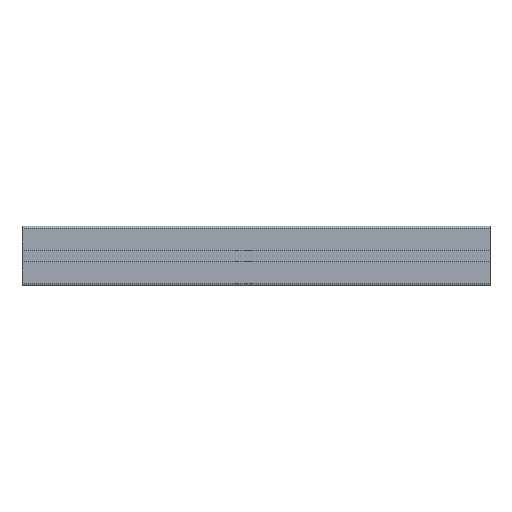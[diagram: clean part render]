
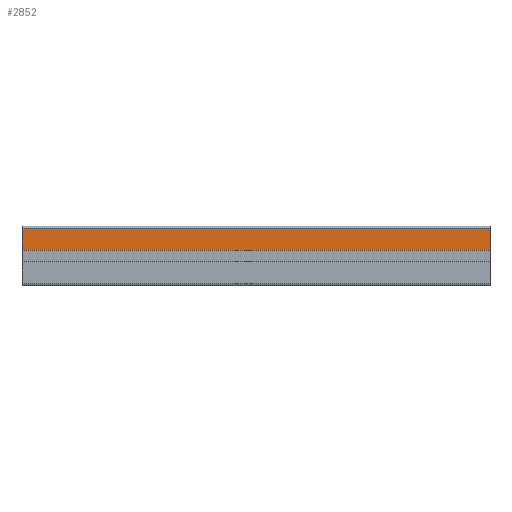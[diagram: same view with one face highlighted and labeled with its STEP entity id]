
A CAD part, front view. The second image highlights one B-rep face of the part: STEP entity #2852.
In plain terms, the highlighted planar face has unit normal (0, -1, 0).
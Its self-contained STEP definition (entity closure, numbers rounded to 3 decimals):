
#148 = VERTEX_POINT ( 'NONE', #3857 ) ;
#162 = ORIENTED_EDGE ( 'NONE', *, *, #2840, .F. ) ;
#172 = ORIENTED_EDGE ( 'NONE', *, *, #2857, .F. ) ;
#175 = EDGE_CURVE ( 'NONE', #2841, #148, #3930, .T. ) ;
#176 = VERTEX_POINT ( 'NONE', #3913 ) ;
#177 = ORIENTED_EDGE ( 'NONE', *, *, #2833, .T. ) ;
#461 = DIRECTION ( 'NONE',  ( 0., 1., 0. ) ) ;
#464 = AXIS2_PLACEMENT_3D ( 'NONE', #468, #461, #522 ) ;
#468 = CARTESIAN_POINT ( 'NONE',  ( 500., -32., 6. ) ) ;
#469 = FACE_OUTER_BOUND ( 'NONE', #2849, .T. ) ;
#473 = PLANE ( 'NONE',  #464 ) ;
#474 = DIRECTION ( 'NONE',  ( -1., 0., 0. ) ) ;
#475 = VECTOR ( 'NONE', #474, 1000. ) ;
#476 = CARTESIAN_POINT ( 'NONE',  ( 500., -32., 6. ) ) ;
#478 = CARTESIAN_POINT ( 'NONE',  ( 0., -32., 29.5 ) ) ;
#482 = LINE ( 'NONE', #476, #475 ) ;
#487 = DIRECTION ( 'NONE',  ( -1., 0., 0. ) ) ;
#488 = VECTOR ( 'NONE', #487, 1000. ) ;
#489 = CARTESIAN_POINT ( 'NONE',  ( 500., -32., 29.5 ) ) ;
#490 = LINE ( 'NONE', #489, #488 ) ;
#491 = CARTESIAN_POINT ( 'NONE',  ( 500., -32., 29.5 ) ) ;
#514 = DIRECTION ( 'NONE',  ( 0., 0., -1. ) ) ;
#515 = VECTOR ( 'NONE', #514, 1000. ) ;
#516 = CARTESIAN_POINT ( 'NONE',  ( 500., -32., 6. ) ) ;
#517 = LINE ( 'NONE', #516, #515 ) ;
#522 = DIRECTION ( 'NONE',  ( 0., 0., 1. ) ) ;
#2833 = EDGE_CURVE ( 'NONE', #2834, #2841, #490, .T. ) ;
#2834 = VERTEX_POINT ( 'NONE', #491 ) ;
#2840 = EDGE_CURVE ( 'NONE', #176, #148, #482, .T. ) ;
#2841 = VERTEX_POINT ( 'NONE', #478 ) ;
#2848 = ORIENTED_EDGE ( 'NONE', *, *, #175, .T. ) ;
#2849 = EDGE_LOOP ( 'NONE', ( #2848, #162, #172, #177 ) ) ;
#2852 = ADVANCED_FACE ( 'NONE', ( #469 ), #473, .F. ) ;
#2857 = EDGE_CURVE ( 'NONE', #2834, #176, #517, .T. ) ;
#3857 = CARTESIAN_POINT ( 'NONE',  ( 0., -32., 6. ) ) ;
#3911 = CARTESIAN_POINT ( 'NONE',  ( 0., -32., 6. ) ) ;
#3913 = CARTESIAN_POINT ( 'NONE',  ( 500., -32., 6. ) ) ;
#3930 = LINE ( 'NONE', #3911, #3972 ) ;
#3971 = DIRECTION ( 'NONE',  ( 0., 0., -1. ) ) ;
#3972 = VECTOR ( 'NONE', #3971, 1000. ) ;
